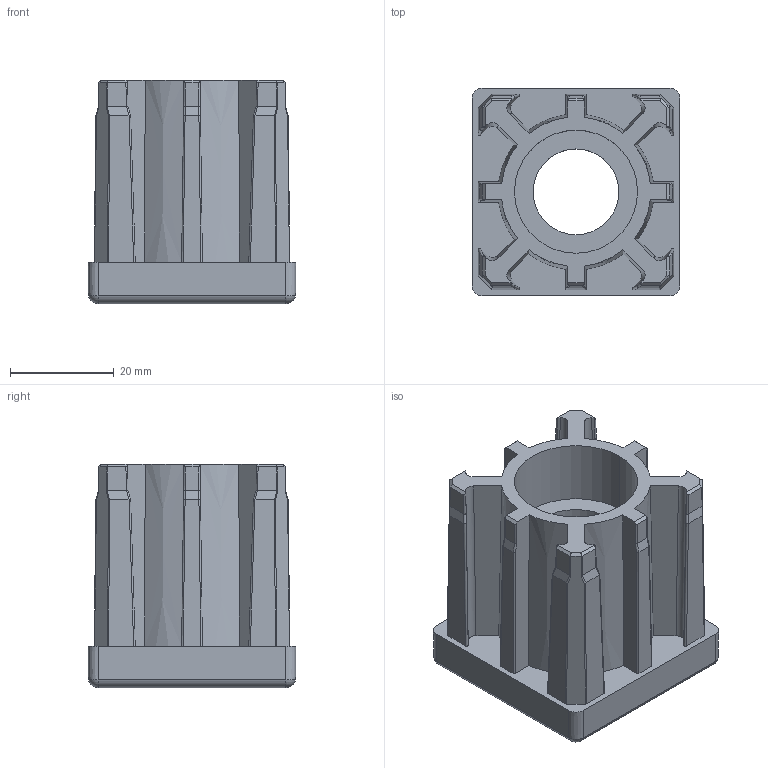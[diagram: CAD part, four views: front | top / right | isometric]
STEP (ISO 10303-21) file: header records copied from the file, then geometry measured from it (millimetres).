
FILE_DESCRIPTION(('STEP AP214'),'1');
FILE_NAME('P41606','2017-01-03T14:24:53',('dentellad'),(' '),'Spatial InterOp 3D',' ',' ');
FILE_SCHEMA(('automotive_design'));
Length unit declared in the file: millimetre
Products named in the file (1): 1
Bounding box: 40 x 40 x 43 mm (x, y, z)
Volume: 31360.2 mm3; surface area: 14500 mm2
Topology: 1 solids, 1 shells, 649 faces, 1868 edges, 1228 vertices
Faces by surface type: plane 531, cylinder 102, cone 12, sphere 4
Entity records: 35719 total; most frequent: CARTESIAN_POINT 4697, ORIENTED_EDGE 3728, DIRECTION 2935, STYLED_ITEM 2514, PRESENTATION_STYLE_ASSIGNMENT 2514, COLOUR_RGB 2514, EDGE_CURVE 1864, CURVE_STYLE 1864
